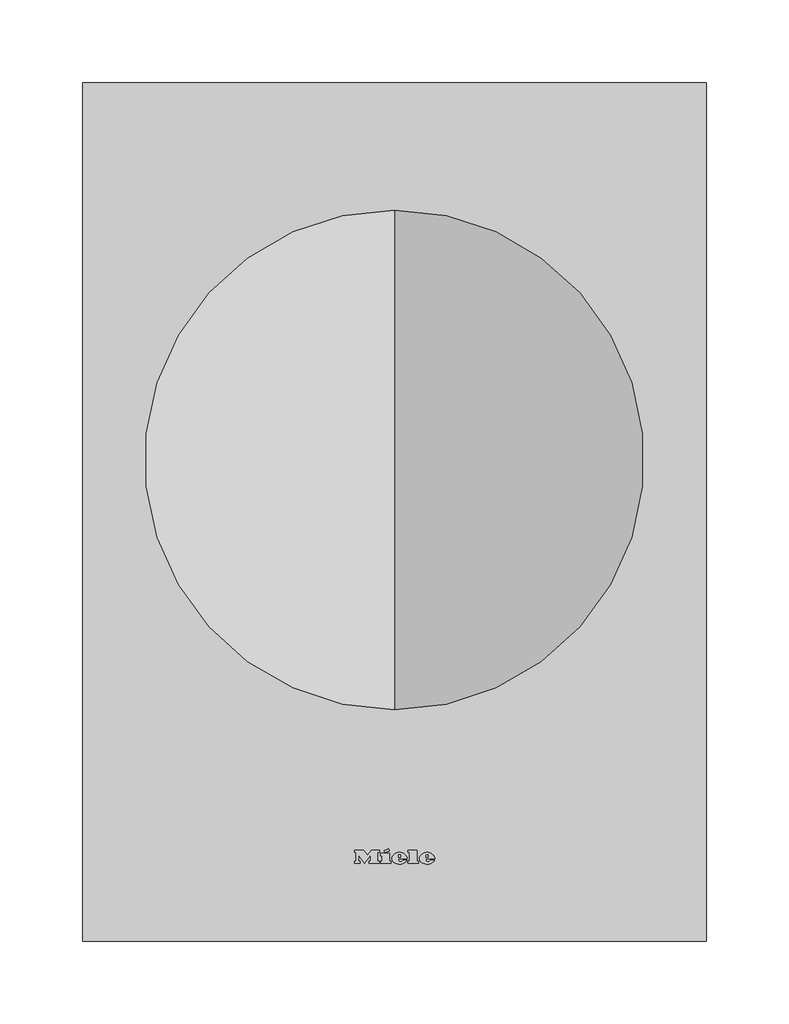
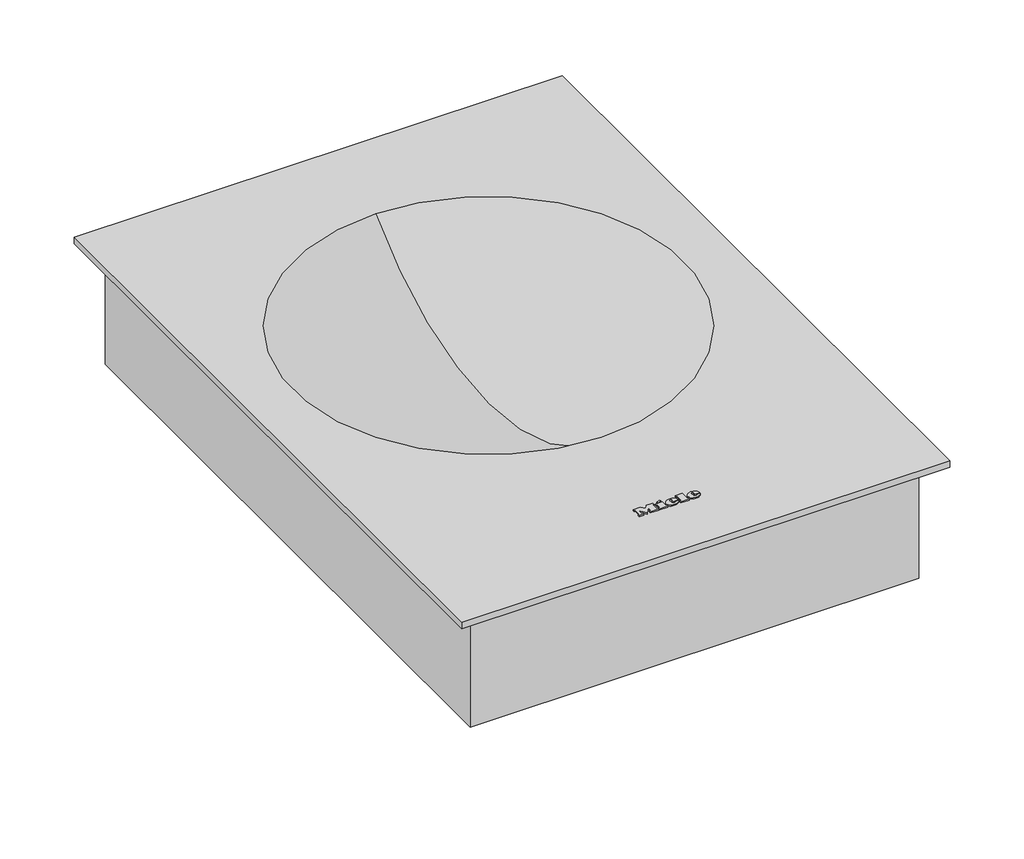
# Not in any storey: 1 proxy.
"""IFC4 building model written with IfcOpenShell, lengths in millimetres."""

import ifcopenshell
import ifcopenshell.guid

model = None  # the IFC model being written
_history = None  # IfcOwnerHistory: only IFC2X3 demands one
_inside = {}  # id of a spatial element -> (the spatial element, [elements in it])
_under = {}  # id of a project, library or spatial element -> (it, [spatial elements below it])
_declared = {}  # id of a project -> (the project, [libraries it declares])
_typed = {}  # id of a type object -> (the type object, [elements of that type])
_made_of = {}  # id of a material, layer set ... -> (it, [elements and type objects made of it])


def new_model(schema):
    """Start an empty IFC model of exactly this schema.

    Asked for "IFC4X3", IfcOpenShell would pick the latest addendum, in which some entities
    have other attributes; the version numbers below select the first issue.
    IFC2X3 requires an IfcOwnerHistory on every rooted entity: one is made here for all.
    """
    global model, _history
    if schema == "IFC4X3":
        model = ifcopenshell.file(schema_version=(4, 3, 0, 0))
    else:
        model = ifcopenshell.file(schema=schema)
    _inside.clear()
    _under.clear()
    _declared.clear()
    _typed.clear()
    _made_of.clear()
    _history = None
    if model.schema == "IFC2X3":
        org = make("IfcOrganization", Name="unknown")
        user = make(
            "IfcPersonAndOrganization",
            ThePerson=make("IfcPerson", FamilyName="unknown"),
            TheOrganization=org,
        )
        app = make(
            "IfcApplication",
            ApplicationDeveloper=org,
            Version="unknown",
            ApplicationFullName="unknown",
            ApplicationIdentifier="unknown",
        )
        _history = make(
            "IfcOwnerHistory",
            OwningUser=user,
            OwningApplication=app,
            ChangeAction="ADDED",
            CreationDate=0,
        )
    return model


def make(cls, **values):
    """One entity of the class cls with the attributes given. An attribute that is None is left unset."""
    return model.create_entity(
        cls, **{name: value for name, value in values.items() if value is not None}
    )


def rooted(cls, **values):
    """An entity with a GlobalId (a new one), such as an element, a storey or a relation."""
    return make(cls, GlobalId=ifcopenshell.guid.new(), OwnerHistory=_history, **values)


def si_unit(unit_type, name, prefix=None):
    """IfcSIUnit, for example si_unit("LENGTHUNIT", "METRE", prefix="MILLI")."""
    return make("IfcSIUnit", UnitType=unit_type, Prefix=prefix, Name=name)


def assignment(units):
    """IfcUnitAssignment: the units of a project."""
    return None if units is None else make("IfcUnitAssignment", Units=units)


def point(xyz):
    """IfcCartesianPoint."""
    return None if xyz is None else make("IfcCartesianPoint", Coordinates=xyz)


def direction(xyz):
    """IfcDirection."""
    return None if xyz is None else make("IfcDirection", DirectionRatios=xyz)


def frame(location, z_axis=None, x_axis=None):
    """IfcAxis2Placement3D, a coordinate frame: its origin and axes. An axis left out is left unset."""
    return make(
        "IfcAxis2Placement3D",
        Location=point(location),
        Axis=direction(z_axis),
        RefDirection=direction(x_axis),
    )


def frame_2d(location, x_axis=None):
    """IfcAxis2Placement2D, a coordinate frame in the plane: its origin and x axis."""
    return make(
        "IfcAxis2Placement2D", Location=point(location), RefDirection=direction(x_axis)
    )


def origin():
    """The frame at (0, 0, 0) with its axes left unset."""
    return frame((0.0, 0.0, 0.0))


def place(relative_to, where):
    """IfcLocalPlacement: puts the frame where relative to a parent placement (None: the world)."""
    return make(
        "IfcLocalPlacement", PlacementRelTo=relative_to, RelativePlacement=where
    )


def context(
    kind, dimensions, precision=None, world=None, true_north=None, identifier=None
):
    """IfcGeometricRepresentationContext, for example the 3D "Model" context."""
    return make(
        "IfcGeometricRepresentationContext",
        ContextIdentifier=identifier,
        ContextType=kind,
        CoordinateSpaceDimension=dimensions,
        Precision=precision,
        WorldCoordinateSystem=world,
        TrueNorth=true_north,
    )


def project(units=None, contexts=None):
    """IfcProject with its units and contexts."""
    return rooted(
        "IfcProject",
        Name="project",
        RepresentationContexts=contexts,
        UnitsInContext=assignment(units),
    )


def spatial(cls, under=None, at=None, **own):
    """A site, building, storey or space (cls), placed at a placement, below another one or the project."""
    s = rooted(cls, ObjectPlacement=at, **own)
    if under is not None:
        _under.setdefault(under.id(), (under, []))[1].append(s)
    return s


def polyline(points):
    """IfcPolyline through the points."""
    return make("IfcPolyline", Points=[point(p) for p in points])


def circle_curve(where, radius):
    """IfcCircle in the frame where."""
    return make("IfcCircle", Position=where, Radius=radius)


def ellipse_curve(where, semi_axis1, semi_axis2):
    """IfcEllipse in the frame where."""
    return make(
        "IfcEllipse", Position=where, SemiAxis1=semi_axis1, SemiAxis2=semi_axis2
    )


def trimmed(basis, trim1, trim2, sense, master):
    """IfcTrimmedCurve: the piece of a basis curve between two trims."""
    return make(
        "IfcTrimmedCurve",
        BasisCurve=basis,
        Trim1=trim1,
        Trim2=trim2,
        SenseAgreement=sense,
        MasterRepresentation=master,
    )


def segment(curve, same_sense, transition):
    """IfcCompositeCurveSegment."""
    return make(
        "IfcCompositeCurveSegment",
        Transition=transition,
        SameSense=same_sense,
        ParentCurve=curve,
    )


def composite_curve(segments, self_intersect=None):
    """IfcCompositeCurve: segments joined end to end."""
    return make("IfcCompositeCurve", Segments=segments, SelfIntersect=self_intersect)


def outline(outer, holes=None, kind="AREA"):
    """IfcArbitraryClosedProfileDef: a profile drawn as a closed curve; with holes, ...WithVoids."""
    if holes is None:
        return make("IfcArbitraryClosedProfileDef", ProfileType=kind, OuterCurve=outer)
    return make(
        "IfcArbitraryProfileDefWithVoids",
        ProfileType=kind,
        OuterCurve=outer,
        InnerCurves=holes,
    )


def extrude(swept, where, along, depth):
    """IfcExtrudedAreaSolid: the profile swept, set in the frame where, extruded along a direction by depth."""
    return make(
        "IfcExtrudedAreaSolid",
        SweptArea=swept,
        Position=where,
        ExtrudedDirection=direction(along),
        Depth=depth,
    )


def faces_of(points, faces, orient=None, outer=None):
    """IfcFace entities. A face is a list of loops; a loop is a list of indices into points, from 0.

    orient and outer hold one flag for each loop. By default every Orientation is true, the
    first loop of a face is its IfcFaceOuterBound and the others are IfcFaceBound.
    """
    made = []
    for i, loops in enumerate(faces):
        bounds = []
        for j, loop in enumerate(loops):
            is_outer = j == 0 if outer is None else outer[i][j]
            bounds.append(
                make(
                    "IfcFaceOuterBound" if is_outer else "IfcFaceBound",
                    Bound=make("IfcPolyLoop", Polygon=[points[k] for k in loop]),
                    Orientation=True if orient is None else orient[i][j],
                )
            )
        made.append(make("IfcFace", Bounds=bounds))
    return made


def faceted_brep(points, faces, orient=None, outer=None, voids=None):
    """IfcFacetedBrep: a solid bounded by flat faces; with voids (closed shells), ...WithVoids."""
    shared = [point(p) for p in points]
    hull = make("IfcClosedShell", CfsFaces=faces_of(shared, faces, orient, outer))
    if voids is None:
        return make("IfcFacetedBrep", Outer=hull)
    return make(
        "IfcFacetedBrepWithVoids",
        Outer=hull,
        Voids=[
            make(cls, CfsFaces=faces_of(shared, fs, o, b)) for cls, fs, o, b in voids
        ],
    )


def shape(context_of_items, identifier, shape_type, items):
    """IfcShapeRepresentation: the items that make up one representation, for example the "Body"."""
    return make(
        "IfcShapeRepresentation",
        ContextOfItems=context_of_items,
        RepresentationIdentifier=identifier,
        RepresentationType=shape_type,
        Items=items,
    )


def source(mapping_origin, context_of_items, identifier, shape_type, items):
    """IfcRepresentationMap: a shape defined once, which mapped items show again and again."""
    return make(
        "IfcRepresentationMap",
        MappingOrigin=mapping_origin,
        MappedRepresentation=shape(context_of_items, identifier, shape_type, items),
    )


def transform(
    local_origin,
    x_axis=None,
    y_axis=None,
    z_axis=None,
    scale=None,
    scale2=None,
    scale3=None,
    uniform=True,
):
    """IfcCartesianTransformationOperator3D, or its non-uniform kind. x_axis, y_axis, z_axis: its Axis1, 2, 3."""
    if uniform:
        return make(
            "IfcCartesianTransformationOperator3D",
            Axis1=direction(x_axis),
            Axis2=direction(y_axis),
            LocalOrigin=point(local_origin),
            Scale=scale,
            Axis3=direction(z_axis),
        )
    return make(
        "IfcCartesianTransformationOperator3DnonUniform",
        Axis1=direction(x_axis),
        Axis2=direction(y_axis),
        LocalOrigin=point(local_origin),
        Scale=scale,
        Axis3=direction(z_axis),
        Scale2=scale2,
        Scale3=scale3,
    )


def mapped(mapping_source, mapping_target):
    """IfcMappedItem: shows the shape of a source again, moved by a transform."""
    return make(
        "IfcMappedItem", MappingSource=mapping_source, MappingTarget=mapping_target
    )


def made_of(thing, what):
    """Note that an element or type object is made of a material, layer set ...; save() writes the relation."""
    if what is not None:
        _made_of.setdefault(what.id(), (what, []))[1].append(thing)
    return thing


def element(
    cls,
    number,
    at=None,
    inside=None,
    cuts=None,
    type_object=None,
    material=None,
    context=None,
    identifier="Body",
    shape_type=None,
    held_by="IfcProductDefinitionShape",
    body=None,
    shapes=None,
    **own,
):
    """One element of the class cls, such as IfcWall. Its Tag is "e" and its number.

    at: its placement. inside: the storey or other place that contains it. cuts: it is an
    opening in that element (IfcRelVoidsElement). A single representation is given by context,
    identifier, shape_type and body (its items); several are given by shapes. held_by: the class
    of the entity that holds the representations. save() writes the other relations.
    """
    e = rooted(cls, Tag="e%d" % number, ObjectPlacement=at, **own)
    if body is not None:
        shapes = [shape(context, identifier, shape_type, body)]
    if shapes is not None:
        e.Representation = make(held_by, Representations=shapes)
    if inside is not None:
        _inside.setdefault(inside.id(), (inside, []))[1].append(e)
    if cuts is not None:
        rooted(
            "IfcRelVoidsElement", RelatingBuildingElement=cuts, RelatedOpeningElement=e
        )
    if type_object is not None:
        _typed.setdefault(type_object.id(), (type_object, []))[1].append(e)
    return made_of(e, material)


def aggregate(whole, parts):
    """IfcRelAggregates: a whole, such as a stair, and the parts it consists of."""
    return rooted("IfcRelAggregates", RelatingObject=whole, RelatedObjects=parts)


def save(model, path):
    """Write the relations noted so far, then the file.

    IfcRelAggregates (storeys below a building ...), IfcRelContainedInSpatialStructure (elements
    in a storey), IfcRelDefinesByType, IfcRelAssociatesMaterial and IfcRelDeclares: one each for
    every whole, place, type object, material and project.
    """
    for whole, parts in _under.values():
        aggregate(whole, parts)
    for where, things in _inside.values():
        rooted(
            "IfcRelContainedInSpatialStructure",
            RelatedElements=things,
            RelatingStructure=where,
        )
    for kind, things in _typed.values():
        rooted("IfcRelDefinesByType", RelatedObjects=things, RelatingType=kind)
    for what, things in _made_of.values():
        rooted("IfcRelAssociatesMaterial", RelatedObjects=things, RelatingMaterial=what)
    for by, libraries in _declared.values():
        rooted("IfcRelDeclares", RelatingContext=by, RelatedDefinitions=libraries)
    model.write(path)


def plane_surface(at):
    """IfcPlane: the flat surface through the origin of the frame at, square to its z axis."""
    return make("IfcPlane", Position=at)


def cylinder_surface(at, radius):
    """IfcCylindricalSurface: all points at the distance radius from the z axis of the frame at."""
    return make("IfcCylindricalSurface", Position=at, Radius=radius)


def revolved_surface(curve, axis_point, axis_direction):
    """IfcSurfaceOfRevolution: the curve turned about the line through axis_point along axis_direction."""
    return make(
        "IfcSurfaceOfRevolution",
        SweptCurve=make("IfcArbitraryOpenProfileDef", ProfileType="CURVE", Curve=curve),
        AxisPosition=make("IfcAxis1Placement", Location=point(axis_point), Axis=direction(axis_direction)),
    )


def extruded_surface(curve, direction_of_extrusion, depth):
    """IfcSurfaceOfLinearExtrusion: the curve pushed along a direction by depth."""
    return make(
        "IfcSurfaceOfLinearExtrusion",
        SweptCurve=make("IfcArbitraryOpenProfileDef", ProfileType="CURVE", Curve=curve),
        ExtrudedDirection=direction(direction_of_extrusion),
        Depth=depth,
    )


def advanced_brep(points, edges, surfaces, faces):
    """IfcAdvancedBrep: a solid bounded by faces that lie on surfaces and meet in shared edges.

    An edge is (start, end): straight between two places in points (the first is 0);
    or (start, end, curve); or (start, end, curve, False) where it runs against its curve.
    A face is (place in surfaces, loops), or (place, loops, False) where it looks against
    its surface's normal. A loop lists edges by number (the first is 1), with a minus sign
    where the edge is run from its end to its start. The first loop is the outer one.
    """
    corners = [point(p) for p in points]
    vertices = [make("IfcVertexPoint", VertexGeometry=c) for c in corners]
    made = []
    for start, end, *more in edges:
        made.append(
            make(
                "IfcEdgeCurve",
                EdgeStart=vertices[start],
                EdgeEnd=vertices[end],
                EdgeGeometry=more[0] if more else make("IfcPolyline", Points=[corners[start], corners[end]]),
                SameSense=more[1] if len(more) > 1 else True,
            )
        )
    hull = []
    for where, loops, *sense in faces:
        bounds = []
        for j, loop in enumerate(loops):
            ring = [make("IfcOrientedEdge", EdgeElement=made[abs(k) - 1], Orientation=k > 0) for k in loop]
            bounds.append(
                make(
                    "IfcFaceOuterBound" if j == 0 else "IfcFaceBound",
                    Bound=make("IfcEdgeLoop", EdgeList=ring),
                    Orientation=True,
                )
            )
        hull.append(make("IfcAdvancedFace", Bounds=bounds, FaceSurface=surfaces[where], SameSense=sense[0] if sense else True))
    return make("IfcAdvancedBrep", Outer=make("IfcClosedShell", CfsFaces=hull))


def specialty_equipment_f029ed66(model_context):
    return source(origin(), model_context, "Body", "SolidModel", [
        advanced_brep(
        [(19.06, 49.1959995, 6.3919765), (19.06, 50.0039992, 6.3925904), (24.412, 50.0039992, 6.3925904), (15.1, 50.0039992, 6.3925904), (17.3, 47.3, 6.390536), (24.276, 49.1959995, 6.3919765), (21.86, 49.1959995, 6.3919765), (19.956, 48.2999997, 6.3912958), (19.06, 51.0279989, 6.3933684), (19.06, 51.8999987, 6.3940309), (20.428, 51.8999987, 6.3940309), (20.428, 51.0279989, 6.3933684), (19.06, 49.1967592, 5.3919768), (19.956, 48.3007595, 5.3912961), (21.86, 49.1967592, 5.3919768), (24.276, 49.1967592, 5.3919768), (17.3, 47.3007598, 5.3905363), (15.1, 50.004759, 5.3925907), (24.412, 50.004759, 5.3925907), (19.06, 50.004759, 5.3925907), (19.06, 51.0287587, 5.3933687), (20.428, 51.0287587, 5.3933687), (20.428, 51.9007584, 5.3940312), (19.06, 51.9007584, 5.3940312)],
        [
            (0, 1),
            (1, 2),
            (2, 3, ellipse_curve(frame((19.756, 50.0039992, 6.3925904), z_axis=(0.0, -0.0007597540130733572, 0.9999997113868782), x_axis=(-1.0, 0.0, 0.0)), 4.656, 3.848)),
            (3, 4, circle_curve(frame((18.1960436, 50.2759991, 6.3927971), z_axis=(0.0, -0.0007597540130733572, 0.9999997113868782), x_axis=(0.0, -0.9999997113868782, -0.0007597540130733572)), 3.1079688)),
            (4, 5, circle_curve(frame((19.6627936, 52.3879985, 6.3944017), z_axis=(0.0, -0.0007597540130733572, 0.9999997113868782), x_axis=(0.0, -0.9999997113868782, -0.0007597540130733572)), 5.6098607)),
            (5, 6),
            (6, 7, circle_curve(frame((20.3470588, 49.9399992, 6.3925418), z_axis=(0.0, 0.0007597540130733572, -0.9999997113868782), x_axis=(0.0, -0.9999997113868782, -0.0007597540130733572)), 1.6859795)),
            (7, 0, circle_curve(frame((19.956, 49.1959995, 6.3919765), z_axis=(0.0, 0.0007597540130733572, -0.9999997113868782), x_axis=(0.0, -0.9999997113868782, -0.0007597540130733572)), 0.896)),
            (8, 9),
            (9, 10, circle_curve(frame((19.744, 51.8999987, 6.3940309), z_axis=(0.0, 0.0007597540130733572, -0.9999997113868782), x_axis=(0.0, -0.9999997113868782, -0.0007597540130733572)), 0.684)),
            (10, 11),
            (11, 8),
            (12, 13, circle_curve(frame((19.956, 49.1967592, 5.3919768), z_axis=(0.0, -0.0007597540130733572, 0.9999997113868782), x_axis=(0.0, -0.9999997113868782, -0.0007597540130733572)), 0.896)),
            (13, 14, circle_curve(frame((20.3470588, 49.940759, 5.3925421), z_axis=(0.0, -0.0007597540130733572, 0.9999997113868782), x_axis=(0.0, -0.9999997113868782, -0.0007597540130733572)), 1.6859795)),
            (14, 15),
            (15, 16, circle_curve(frame((19.6627936, 52.3887583, 5.394402), z_axis=(0.0, 0.0007597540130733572, -0.9999997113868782), x_axis=(0.0, -0.9999997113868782, -0.0007597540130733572)), 5.6098607)),
            (16, 17, circle_curve(frame((18.1960436, 50.2767589, 5.3927974), z_axis=(0.0, 0.0007597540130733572, -0.9999997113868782), x_axis=(0.0, -0.9999997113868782, -0.0007597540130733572)), 3.1079688)),
            (17, 18, ellipse_curve(frame((19.756, 50.004759, 5.3925907), z_axis=(0.0, 0.0007597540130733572, -0.9999997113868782), x_axis=(-1.0, 0.0, 0.0)), 4.656, 3.848)),
            (18, 19),
            (19, 12),
            (20, 21),
            (21, 22),
            (22, 23, circle_curve(frame((19.744, 51.9007584, 5.3940312), z_axis=(0.0, -0.0007597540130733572, 0.9999997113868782), x_axis=(0.0, -0.9999997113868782, -0.0007597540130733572)), 0.684)),
            (23, 20),
            (0, 12),
            (19, 1),
            (18, 2),
            (5, 15),
            (14, 6),
            (17, 3),
            (13, 7),
            (16, 4),
            (8, 20),
            (23, 9),
            (22, 10),
            (21, 11),
        ],
        [
            plane_surface(frame((19.06, 50.0039992, 6.3925904), z_axis=(0.0, -0.0007597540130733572, 0.9999997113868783), x_axis=(0.0, 0.9999997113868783, 0.0007597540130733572))),
            plane_surface(frame((19.06, 50.004759, 5.3925907), z_axis=(0.0, 0.0007597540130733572, -0.9999997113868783), x_axis=(0.0, -0.9999997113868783, -0.0007597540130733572))),
            plane_surface(frame((19.06, 49.1959995, 6.3919765), z_axis=(1.0, 0.0, 0.0), x_axis=(0.0, 0.0007597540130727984, -0.9999997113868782))),
            plane_surface(frame((19.06, 50.0039992, 6.3925904), z_axis=(0.0, -0.9999997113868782, -0.0007597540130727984), x_axis=(0.0, 0.0007597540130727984, -0.9999997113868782))),
            plane_surface(frame((24.276, 49.1959995, 6.3919765), z_axis=(0.0, 0.9999997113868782, 0.0007597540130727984), x_axis=(0.0, 0.0007597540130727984, -0.9999997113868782))),
            extruded_surface(trimmed(ellipse_curve(frame((19.756, 50.0055187, 4.392591), z_axis=(0.0, -0.0007597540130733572, 0.9999997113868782), x_axis=(-1.0, 0.0, 0.0)), 4.656, 3.848), [point((24.412, 50.0055187, 4.392591))], [point((15.1, 50.0055187, 4.392591))], True, "CARTESIAN"), (0.0, -0.0007597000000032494, 0.9999997), 0.9999999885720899),
            revolved_surface(polyline([(20.3470588, 48.25477998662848, 5.391261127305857), (20.3470588, 48.25402023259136, 6.391260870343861)]), (20.3470588, 49.940759, 5.3925421), (0.0, 0.0007597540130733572, -0.9999997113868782)),
            revolved_surface(polyline([(19.956, 48.30075945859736, 5.3912960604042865), (19.956, 48.29999970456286, 6.3912958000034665)]), (19.956, 49.1967592, 5.3919768), (0.0, 0.0007597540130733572, -0.9999997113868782)),
            cylinder_surface(frame((18.1960436, 50.2767589, 5.3927974), z_axis=(0.0, -0.0007597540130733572, 0.9999997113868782), x_axis=(0.0, -0.9999997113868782, -0.0007597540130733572)), 3.1079688),
            cylinder_surface(frame((19.6627936, 52.3887583, 5.394402), z_axis=(0.0, -0.0007597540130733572, 0.9999997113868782), x_axis=(0.0, -0.9999997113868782, -0.0007597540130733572)), 5.6098607),
            plane_surface(frame((19.06, 51.0279989, 6.3933684), z_axis=(1.0, 0.0, 0.0), x_axis=(0.0, 0.0007597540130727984, -0.9999997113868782))),
            revolved_surface(polyline([(19.744, 51.21675859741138, 5.393511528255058), (19.744, 51.215998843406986, 6.393511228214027)]), (19.744, 51.9007584, 5.3940312), (0.0, 0.0007597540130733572, -0.9999997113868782)),
            plane_surface(frame((20.428, 51.8999987, 6.3940309), z_axis=(-1.0, 0.0, 0.0), x_axis=(0.0, 0.0007597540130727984, -0.9999997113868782))),
            plane_surface(frame((20.428, 51.0279989, 6.3933684), z_axis=(0.0, 0.9999997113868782, 0.0007597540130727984), x_axis=(0.0, 0.0007597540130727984, -0.9999997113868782))),
        ],
        [
            (0, [[1, 2, 3, 4, 5, 6, 7, 8], [9, 10, 11, 12]]),
            (1, [[13, 14, 15, 16, 17, 18, 19, 20], [21, 22, 23, 24]]),
            (2, [[-1, 25, -20, 26]]),
            (3, [[-2, -26, -19, 27]]),
            (4, [[-6, 28, -15, 29]]),
            (5, [[-3, -27, -18, 30]]),
            (6, [[-7, -29, -14, 31]]),
            (7, [[-8, -31, -13, -25]]),
            (8, [[-4, -30, -17, 32]]),
            (9, [[-5, -32, -16, -28]]),
            (10, [[-9, 33, -24, 34]]),
            (11, [[-10, -34, -23, 35]]),
            (12, [[-11, -35, -22, 36]]),
            (13, [[-12, -36, -21, -33]]),
        ],
    ),
        advanced_brep(
        [(2.364, 49.1959995, 6.3919765), (2.364, 50.0039992, 6.3925904), (7.716, 50.0039992, 6.3925904), (-1.596, 50.0039992, 6.3925904), (0.604, 47.3, 6.390536), (7.58, 49.1959995, 6.3919765), (5.164, 49.1959995, 6.3919765), (3.26, 48.2999997, 6.3912958), (2.364, 51.0279989, 6.3933684), (2.364, 51.8999987, 6.3940309), (3.732, 51.8999987, 6.3940309), (3.732, 51.0279989, 6.3933684), (2.364, 49.1967592, 5.3919768), (3.26, 48.3007595, 5.3912961), (5.164, 49.1967592, 5.3919768), (7.58, 49.1967592, 5.3919768), (0.604, 47.3007598, 5.3905363), (-1.596, 50.004759, 5.3925907), (7.716, 50.004759, 5.3925907), (2.364, 50.004759, 5.3925907), (2.364, 51.0287587, 5.3933687), (3.732, 51.0287587, 5.3933687), (3.732, 51.9007584, 5.3940312), (2.364, 51.9007584, 5.3940312)],
        [
            (0, 1),
            (1, 2),
            (2, 3, ellipse_curve(frame((3.06, 50.0039992, 6.3925904), z_axis=(0.0, -0.0007597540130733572, 0.9999997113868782), x_axis=(-1.0, 0.0, 0.0)), 4.656, 3.848)),
            (3, 4, circle_curve(frame((1.5000436, 50.2759991, 6.3927971), z_axis=(0.0, -0.0007597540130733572, 0.9999997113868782), x_axis=(0.0, -0.9999997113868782, -0.0007597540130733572)), 3.1079688)),
            (4, 5, circle_curve(frame((2.9667936, 52.3879985, 6.3944017), z_axis=(0.0, -0.0007597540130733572, 0.9999997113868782), x_axis=(0.0, -0.9999997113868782, -0.0007597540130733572)), 5.6098607)),
            (5, 6),
            (6, 7, circle_curve(frame((3.6510588, 49.9399992, 6.3925418), z_axis=(0.0, 0.0007597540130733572, -0.9999997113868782), x_axis=(0.0, -0.9999997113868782, -0.0007597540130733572)), 1.6859795)),
            (7, 0, circle_curve(frame((3.26, 49.1959995, 6.3919765), z_axis=(0.0, 0.0007597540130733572, -0.9999997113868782), x_axis=(0.0, -0.9999997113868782, -0.0007597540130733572)), 0.896)),
            (8, 9),
            (9, 10, circle_curve(frame((3.048, 51.8999987, 6.3940309), z_axis=(0.0, 0.0007597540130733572, -0.9999997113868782), x_axis=(0.0, -0.9999997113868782, -0.0007597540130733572)), 0.684)),
            (10, 11),
            (11, 8),
            (12, 13, circle_curve(frame((3.26, 49.1967592, 5.3919768), z_axis=(0.0, -0.0007597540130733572, 0.9999997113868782), x_axis=(0.0, -0.9999997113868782, -0.0007597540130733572)), 0.896)),
            (13, 14, circle_curve(frame((3.6510588, 49.940759, 5.3925421), z_axis=(0.0, -0.0007597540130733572, 0.9999997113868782), x_axis=(0.0, -0.9999997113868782, -0.0007597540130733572)), 1.6859795)),
            (14, 15),
            (15, 16, circle_curve(frame((2.9667936, 52.3887583, 5.394402), z_axis=(0.0, 0.0007597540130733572, -0.9999997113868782), x_axis=(0.0, -0.9999997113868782, -0.0007597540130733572)), 5.6098607)),
            (16, 17, circle_curve(frame((1.5000436, 50.2767589, 5.3927974), z_axis=(0.0, 0.0007597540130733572, -0.9999997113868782), x_axis=(0.0, -0.9999997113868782, -0.0007597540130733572)), 3.1079688)),
            (17, 18, ellipse_curve(frame((3.06, 50.004759, 5.3925907), z_axis=(0.0, 0.0007597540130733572, -0.9999997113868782), x_axis=(-1.0, 0.0, 0.0)), 4.656, 3.848)),
            (18, 19),
            (19, 12),
            (20, 21),
            (21, 22),
            (22, 23, circle_curve(frame((3.048, 51.9007584, 5.3940312), z_axis=(0.0, -0.0007597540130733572, 0.9999997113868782), x_axis=(0.0, -0.9999997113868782, -0.0007597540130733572)), 0.684)),
            (23, 20),
            (0, 12),
            (19, 1),
            (18, 2),
            (5, 15),
            (14, 6),
            (17, 3),
            (13, 7),
            (16, 4),
            (8, 20),
            (23, 9),
            (22, 10),
            (21, 11),
        ],
        [
            plane_surface(frame((2.364, 50.0039992, 6.3925904), z_axis=(0.0, -0.0007597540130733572, 0.9999997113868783), x_axis=(0.0, 0.9999997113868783, 0.0007597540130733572))),
            plane_surface(frame((2.364, 50.004759, 5.3925907), z_axis=(0.0, 0.0007597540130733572, -0.9999997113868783), x_axis=(0.0, -0.9999997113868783, -0.0007597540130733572))),
            plane_surface(frame((2.364, 49.1959995, 6.3919765), z_axis=(1.0, 0.0, 0.0), x_axis=(0.0, 0.0007597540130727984, -0.9999997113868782))),
            plane_surface(frame((2.364, 50.0039992, 6.3925904), z_axis=(0.0, -0.9999997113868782, -0.0007597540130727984), x_axis=(0.0, 0.0007597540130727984, -0.9999997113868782))),
            plane_surface(frame((7.58, 49.1959995, 6.3919765), z_axis=(0.0, 0.9999997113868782, 0.0007597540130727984), x_axis=(0.0, 0.0007597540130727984, -0.9999997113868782))),
            extruded_surface(trimmed(ellipse_curve(frame((3.06, 50.0055187, 4.392591), z_axis=(0.0, -0.0007597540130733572, 0.9999997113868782), x_axis=(-1.0, 0.0, 0.0)), 4.656, 3.848), [point((7.716, 50.0055187, 4.392591))], [point((-1.596, 50.0055187, 4.392591))], True, "CARTESIAN"), (0.0, -0.0007597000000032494, 0.9999997), 0.9999999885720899),
            revolved_surface(polyline([(3.6510588, 48.25477998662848, 5.391261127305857), (3.6510588, 48.25402023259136, 6.391260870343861)]), (3.6510588, 49.940759, 5.3925421), (0.0, 0.0007597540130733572, -0.9999997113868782)),
            revolved_surface(polyline([(3.26, 48.30075945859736, 5.3912960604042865), (3.26, 48.29999970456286, 6.3912958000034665)]), (3.26, 49.1967592, 5.3919768), (0.0, 0.0007597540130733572, -0.9999997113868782)),
            cylinder_surface(frame((1.5000436, 50.2767589, 5.3927974), z_axis=(0.0, -0.0007597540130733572, 0.9999997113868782), x_axis=(0.0, -0.9999997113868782, -0.0007597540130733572)), 3.1079688),
            cylinder_surface(frame((2.9667936, 52.3887583, 5.394402), z_axis=(0.0, -0.0007597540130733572, 0.9999997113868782), x_axis=(0.0, -0.9999997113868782, -0.0007597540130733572)), 5.6098607),
            plane_surface(frame((2.364, 51.0279989, 6.3933684), z_axis=(1.0, 0.0, 0.0), x_axis=(0.0, 0.0007597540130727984, -0.9999997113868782))),
            revolved_surface(polyline([(3.048, 51.21675859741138, 5.393511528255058), (3.048, 51.215998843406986, 6.393511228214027)]), (3.048, 51.9007584, 5.3940312), (0.0, 0.0007597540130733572, -0.9999997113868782)),
            plane_surface(frame((3.732, 51.8999987, 6.3940309), z_axis=(-1.0, 0.0, 0.0), x_axis=(0.0, 0.0007597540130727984, -0.9999997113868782))),
            plane_surface(frame((3.732, 51.0279989, 6.3933684), z_axis=(0.0, 0.9999997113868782, 0.0007597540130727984), x_axis=(0.0, 0.0007597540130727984, -0.9999997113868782))),
        ],
        [
            (0, [[1, 2, 3, 4, 5, 6, 7, 8], [9, 10, 11, 12]]),
            (1, [[13, 14, 15, 16, 17, 18, 19, 20], [21, 22, 23, 24]]),
            (2, [[-1, 25, -20, 26]]),
            (3, [[-2, -26, -19, 27]]),
            (4, [[-6, 28, -15, 29]]),
            (5, [[-3, -27, -18, 30]]),
            (6, [[-7, -29, -14, 31]]),
            (7, [[-8, -31, -13, -25]]),
            (8, [[-4, -30, -17, 32]]),
            (9, [[-5, -32, -16, -28]]),
            (10, [[-9, 33, -24, 34]]),
            (11, [[-10, -34, -23, 35]]),
            (12, [[-11, -35, -22, 36]]),
            (13, [[-12, -36, -21, -33]]),
        ],
    ),
        extrude(outline(polyline([(0.0, 0.0), (-0.0109086, -2.9993294), (-1.4390415, -2.9920868), (-1.4315306, 0.0), (0.0, 0.0)])), frame((-6.38, 54.8287576, 5.3962558), z_axis=(0.0, -0.0007597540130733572, 0.9999997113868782), x_axis=(-0.42472021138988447, 0.9053243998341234, 0.0006878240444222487)), (0.0, 0.0, 1.0), 1.0),
        extrude(outline(polyline([(-0.4933908, 2.4141097), (-2.7800844, -2.4601583), (-7.0459742, -0.4588767), (-7.4401145, -1.2990179), (-8.6568709, -0.728194), (-5.9760369, 4.9862153), (-4.7592806, 4.4153913), (-5.1636142, 3.5535222), (-2.1941494, 2.16044), (-1.7898157, 3.022309), (-0.4933908, 2.4141097)])), frame((-6.38, 54.8287576, 5.3962558), z_axis=(0.0, -0.0007597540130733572, 0.9999997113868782), x_axis=(-0.42472021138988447, 0.9053243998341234, 0.0006878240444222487)), (0.0, 0.0, 1.0), 1.0),
        extrude(outline(polyline([(0.0, 0.0), (0.0, -1.304), (-5.504, -1.304), (-5.504, 5.3519999), (-6.488, 5.3519999), (-6.488, 6.6959999), (0.0, 6.6959999), (0.0, 5.3519999), (-0.96, 5.3519999), (-0.96, 0.0), (0.0, 0.0)])), frame((8.164, 53.9967578, 5.3956236), z_axis=(0.0, -0.0007597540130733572, 0.9999997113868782), x_axis=(-1.0, 0.0, 0.0)), (0.0, 0.0, 1.0), 1.0),
        extrude(outline(polyline([(0.0, 0.0), (0.0, -1.304), (-5.576, -1.304), (-7.92, 1.696), (-10.256, -1.304), (-15.128, -1.304), (-15.128, 0.0), (-14.112, 0.0), (-14.112, 5.3519999), (-15.128, 5.3519999), (-15.128, 6.6959999), (-8.744, 6.6959999), (-8.744, 5.3519999), (-9.728, 5.3519999), (-9.728, 1.8807776), (-6.136, 6.6959999), (-2.56, 1.9488753), (-2.56, 5.3519999), (-3.52, 5.3519999), (-3.52, 6.6959999), (0.0, 6.6959999), (0.0, 5.3519999), (-0.968, 5.3519999), (-0.968, 0.0), (0.0, 0.0)])), frame((-24.3, 53.9967578, 5.3956236), z_axis=(0.0, -0.0007597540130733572, 0.9999997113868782), x_axis=(-1.0, 0.0, 0.0)), (0.0, 0.0, 1.0), 1.0),
        extrude(outline(polyline([(-114.0, 107.5), (-114.0, 477.7), (114.0, 477.7), (114.0, 450.1), (153.5, 450.1), (153.5, 200.1), (114.0, 200.1), (114.0, 107.5), (-114.0, 107.5)])), frame((0.0, 0.0, -127.5), z_axis=(0.0, 0.0, 1.0), x_axis=(1.0, 0.0, 0.0)), (0.0, 0.0, 1.0), 32.5),
        advanced_brep(
        [(189.0, 520.0, 5.4), (-189.0, 520.0, 5.4), (-189.0, 0.0, 5.4), (189.0, 0.0, 5.4), (0.0, 140.3568559, 5.4), (0.0, 442.6431441, 5.4), (189.0, 520.0, 0.0), (189.0, 0.0, 0.0), (-189.0, 0.0, 0.0), (-189.0, 520.0, 0.0), (165.0, 131.0, 0.0), (165.0, 452.0, 0.0), (-165.0, 452.0, 0.0), (-165.0, 131.0, 0.0), (165.0, 131.0, -65.0), (165.0, 452.0, -65.0), (-165.0, 452.0, -65.0), (-165.0, 131.0, -65.0), (0.0, 291.5, -58.5)],
        [
            (0, 1),
            (1, 2),
            (2, 3),
            (3, 0),
            (4, 5, circle_curve(frame((0.0, 291.5, 5.4), z_axis=(0.0, 0.0, -1.0), x_axis=(0.0, -1.0, 0.0)), 151.1431441)),
            (5, 4, circle_curve(frame((0.0, 291.5, 5.4), z_axis=(0.0, 0.0, -1.0), x_axis=(0.0, -1.0, 0.0)), 151.1431441)),
            (6, 7),
            (7, 8),
            (8, 9),
            (9, 6),
            (10, 11),
            (11, 12),
            (12, 13),
            (13, 10),
            (0, 6),
            (9, 1),
            (8, 2),
            (7, 3),
            (14, 15),
            (15, 11),
            (10, 14),
            (16, 17),
            (17, 13),
            (12, 16),
            (15, 16),
            (17, 14),
            (18, 5, circle_curve(frame((0.0, 291.5, 152.2), z_axis=(1.0, 0.0, 0.0), x_axis=(0.0, -1.0, 0.0)), 210.7)),
            (4, 18, circle_curve(frame((0.0, 291.5, 152.2), z_axis=(1.0, 0.0, 0.0), x_axis=(0.0, 1.0, 0.0)), 210.7)),
        ],
        [
            plane_surface(frame((-189.0, 520.0, 5.4), z_axis=(0.0, 0.0, 1.0), x_axis=(-1.0, 0.0, 0.0))),
            plane_surface(frame((-189.0, 520.0, 0.0), z_axis=(0.0, 0.0, -1.0), x_axis=(1.0, 0.0, 0.0))),
            plane_surface(frame((189.0, 520.0, 5.4), z_axis=(0.0, 1.0, 0.0), x_axis=(0.0, 0.0, -1.0))),
            plane_surface(frame((-189.0, 520.0, 5.4), z_axis=(-1.0, 0.0, 0.0), x_axis=(0.0, 0.0, -1.0))),
            plane_surface(frame((-189.0, 0.0, 5.4), z_axis=(0.0, -1.0, 0.0), x_axis=(0.0, 0.0, -1.0))),
            plane_surface(frame((189.0, 0.0, 5.4), z_axis=(1.0, 0.0, 0.0), x_axis=(0.0, 0.0, -1.0))),
            plane_surface(frame((165.0, 452.0, -65.0), z_axis=(1.0, 0.0, 0.0), x_axis=(0.0, 0.0, 1.0))),
            plane_surface(frame((-165.0, 452.0, -65.0), z_axis=(-1.0, 0.0, 0.0), x_axis=(0.0, 0.0, -1.0))),
            plane_surface(frame((165.0, 452.0, -65.0), z_axis=(0.0, 1.0, 0.0), x_axis=(-1.0, 0.0, 0.0))),
            plane_surface(frame((165.0, 131.0, 5.4), z_axis=(0.0, -1.0, 0.0), x_axis=(-1.0, 0.0, 0.0))),
            plane_surface(frame((165.0, 131.0, -65.0), z_axis=(0.0, 0.0, -1.0), x_axis=(-1.0, 0.0, 0.0))),
            revolved_surface(trimmed(ellipse_curve(frame((0.0, 291.5, 152.2), z_axis=(-1.0, 0.0, 0.0), x_axis=(0.0, 1.0, 0.0)), 210.7, 210.7), [point((0.0, 291.5, -58.5))], [point((0.0, 291.5, 362.9))], True, "CARTESIAN"), (0.0, 291.5, 158.1044717), (0.0, 0.0, -1.0)),
        ],
        [
            (0, [[1, 2, 3, 4], [5, 6]]),
            (1, [[7, 8, 9, 10], [11, 12, 13, 14]]),
            (2, [[-1, 15, -10, 16]]),
            (3, [[-2, -16, -9, 17]]),
            (4, [[-3, -17, -8, 18]]),
            (5, [[-4, -18, -7, -15]]),
            (6, [[19, 20, -11, 21]]),
            (7, [[22, 23, -13, 24]]),
            (8, [[25, -24, -12, -20]]),
            (9, [[26, -21, -14, -23]]),
            (10, [[-19, -26, -22, -25]]),
            (11, [[27, -5, 28]]),
            (11, [[-27, -28, -6]]),
        ],
    ),
        faceted_brep([(174.0, 505.0, -95.0), (174.0, 15.0, -95.0), (-174.0, 15.0, -95.0), (-174.0, 505.0, -95.0), (174.0, 505.0, 0.0), (-174.0, 505.0, 0.0), (-174.0, 15.0, 0.0), (174.0, 15.0, 0.0), (165.0, 452.0, 0.0), (165.0, 131.0, 0.0), (-165.0, 131.0, 0.0), (-165.0, 452.0, 0.0), (165.0, 452.0, -66.0), (165.0, 131.0, -66.0), (-165.0, 131.0, -66.0), (-165.0, 452.0, -66.0)], [[[0, 1, 2, 3]], [[4, 5, 6, 7], [8, 9, 10, 11]], [[0, 3, 5, 4]], [[3, 2, 6, 5]], [[2, 1, 7, 6]], [[1, 0, 4, 7]], [[12, 13, 9, 8]], [[14, 15, 11, 10]], [[15, 12, 8, 11]], [[13, 14, 10, 9]], [[13, 12, 15, 14]]]),
        extrude(outline(polyline([(447.3772603, -108.0), (440.0, -108.0), (440.0, -106.7442961), (446.1215564, -106.7442961), (446.1215564, -103.4480734), (440.470889, -103.4480734), (440.470889, -102.1923696), (446.1215564, -102.1923696), (446.1215564, -99.2100729), (440.156963, -99.2100729), (440.156963, -97.954369), (447.3772603, -97.954369), (447.3772603, -108.0)])), frame((-145.0, 0.0, 0.0), z_axis=(1.0, 0.0, 0.0), x_axis=(0.0, 1.0, 0.0)), (0.0, 0.0, 1.0), 1.0),
        extrude(outline(polyline([(438.1164442, -108.0), (431.8379248, -108.0), (431.8379248, -106.7442961), (436.8607403, -106.7442961), (436.8607403, -97.954369), (438.1164442, -97.954369), (438.1164442, -108.0)])), frame((-145.0, 0.0, 0.0), z_axis=(1.0, 0.0, 0.0), x_axis=(0.0, 1.0, 0.0)), (0.0, 0.0, 1.0), 1.0),
        extrude(outline(composite_curve([segment(trimmed(circle_curve(frame_2d((440.0, -103.0)), 8.0), [point((448.0, -103.0))], [point((432.0, -103.0))], False, "CARTESIAN"), True, "CONTINUOUS"), segment(trimmed(circle_curve(frame_2d((440.0, -103.0)), 8.0), [point((432.0, -103.0))], [point((448.0, -103.0))], False, "CARTESIAN"), True, "CONTINUOUS")], self_intersect=False)), frame((-144.0, 0.0, 0.0), z_axis=(1.0, 0.0, 0.0), x_axis=(0.0, 1.0, 0.0)), (0.0, 0.0, 1.0), 30.0),
    ])


model = new_model("IFC4")

# Units and contexts
model_context = context("Model", 3, world=origin())
ifc_project = project(units=[si_unit("LENGTHUNIT", "METRE", prefix="MILLI")], contexts=[model_context])

# Site, building
site = spatial("IfcSite", under=ifc_project)
building = spatial("IfcBuilding", under=site)

# Proxy
placement = place(None, origin())
specialty_equipment_shape = specialty_equipment_f029ed66(model_context)
element("IfcBuildingElementProxy", 1, Name="11280000_D_CS7641FL : 27764150_D_11280000_CS7641FL", ObjectType="11280000_D_CS7641FL : 27764150_D_11280000_CS7641FL", at=placement, inside=building, context=model_context, shape_type="MappedRepresentation", body=[
    mapped(specialty_equipment_shape, transform((0.0, 0.0, 0.0), x_axis=(1.0, 0.0, 0.0), y_axis=(0.0, 1.0, 0.0), z_axis=(0.0, 0.0, 1.0))),
])

save(model, "model.ifc")
